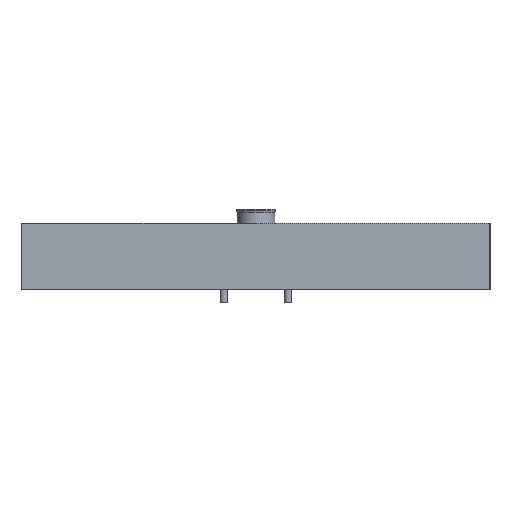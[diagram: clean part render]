
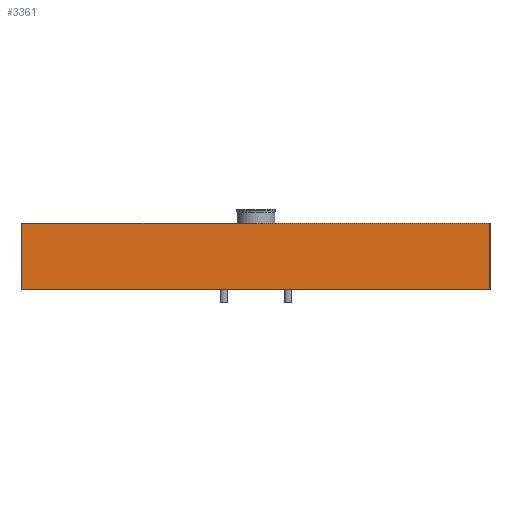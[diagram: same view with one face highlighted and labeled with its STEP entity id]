
A CAD part, left-side view. The second image highlights one B-rep face of the part: STEP entity #3361.
In plain terms, the highlighted planar face has unit normal (-1, 0, 0).
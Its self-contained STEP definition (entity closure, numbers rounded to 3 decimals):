
#3361 = ADVANCED_FACE( '', ( #7493 ), #7494, .F. );
#7493 = FACE_OUTER_BOUND( '', #14378, .T. );
#7494 = PLANE( '', #14379 );
#14378 = EDGE_LOOP( '', ( #25602, #25603, #25604, #25605 ) );
#14379 = AXIS2_PLACEMENT_3D( '', #25606, #25607, #25608 );
#25602 = ORIENTED_EDGE( '', *, *, #33773, .T. );
#25603 = ORIENTED_EDGE( '', *, *, #35660, .F. );
#25604 = ORIENTED_EDGE( '', *, *, #35324, .F. );
#25605 = ORIENTED_EDGE( '', *, *, #35661, .T. );
#25606 = CARTESIAN_POINT( '', ( -348., 248., 70. ) );
#25607 = DIRECTION( '', ( 1., 0., 0. ) );
#25608 = DIRECTION( '', ( 0., 1., 0. ) );
#33773 = EDGE_CURVE( '', #39947, #39948, #39949, .T. );
#35324 = EDGE_CURVE( '', #42287, #42288, #42289, .T. );
#35660 = EDGE_CURVE( '', #42288, #39948, #42746, .T. );
#35661 = EDGE_CURVE( '', #42287, #39947, #42747, .T. );
#39947 = VERTEX_POINT( '', #49646 );
#39948 = VERTEX_POINT( '', #49647 );
#39949 = LINE( '', #49648, #49649 );
#42287 = VERTEX_POINT( '', #54134 );
#42288 = VERTEX_POINT( '', #54135 );
#42289 = LINE( '', #54136, #54137 );
#42746 = LINE( '', #54982, #54983 );
#42747 = LINE( '', #54984, #54985 );
#49646 = CARTESIAN_POINT( '', ( -348., 248., 0. ) );
#49647 = CARTESIAN_POINT( '', ( -348., -248., 0. ) );
#49648 = CARTESIAN_POINT( '', ( -348., 248., 0. ) );
#49649 = VECTOR( '', #60674, 1000. );
#54134 = CARTESIAN_POINT( '', ( -348., 248., 70. ) );
#54135 = CARTESIAN_POINT( '', ( -348., -248., 70. ) );
#54136 = CARTESIAN_POINT( '', ( -348., 248., 70. ) );
#54137 = VECTOR( '', #62644, 1000. );
#54982 = CARTESIAN_POINT( '', ( -348., -248., 70. ) );
#54983 = VECTOR( '', #63041, 1000. );
#54984 = CARTESIAN_POINT( '', ( -348., 248., 70. ) );
#54985 = VECTOR( '', #63042, 1000. );
#60674 = DIRECTION( '', ( 0., -1., 0. ) );
#62644 = DIRECTION( '', ( 0., -1., 0. ) );
#63041 = DIRECTION( '', ( 0., 0., -1. ) );
#63042 = DIRECTION( '', ( 0., 0., -1. ) );
